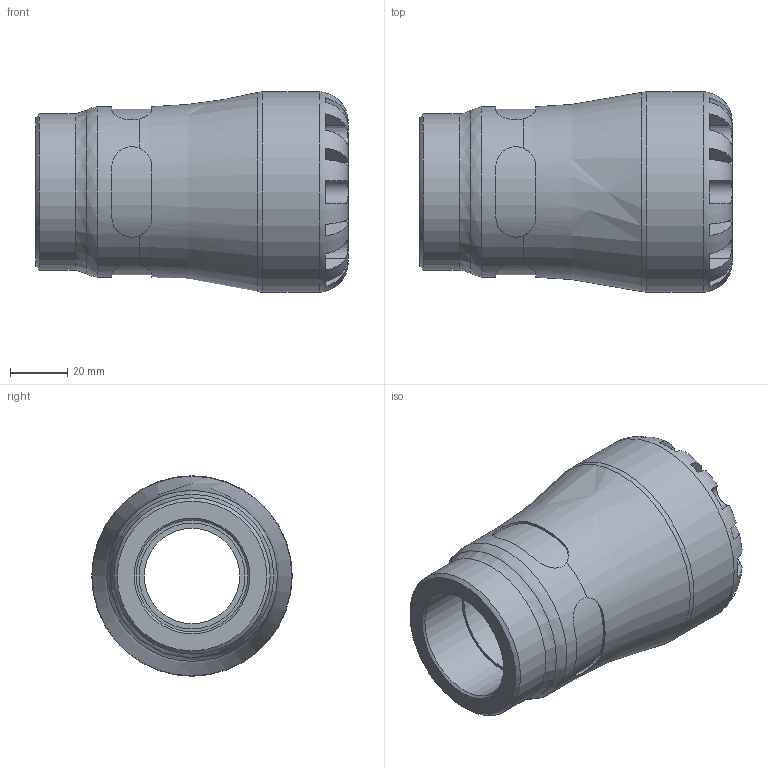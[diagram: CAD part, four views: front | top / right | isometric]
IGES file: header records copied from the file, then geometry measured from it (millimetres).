
Global section: file name: 1073G0040013.ipt; native system: Autodesk Inventor 2015; preprocessor: unknown; author: KIM; date: 20170122.113816; units: millimetre
Bounding box: 109 x 70 x 70 mm (x, y, z)
Volume: 200522 mm3; surface area: 40557 mm2
Topology: 1 solids, 1 shells, 104 faces, 279 edges, 180 vertices
Faces by surface type: plane 61, revolution 27, cylinder 15, cone 1
Full cylindrical faces by diameter (mm): 54.6 x1, 59.5 x1, 70 x1
